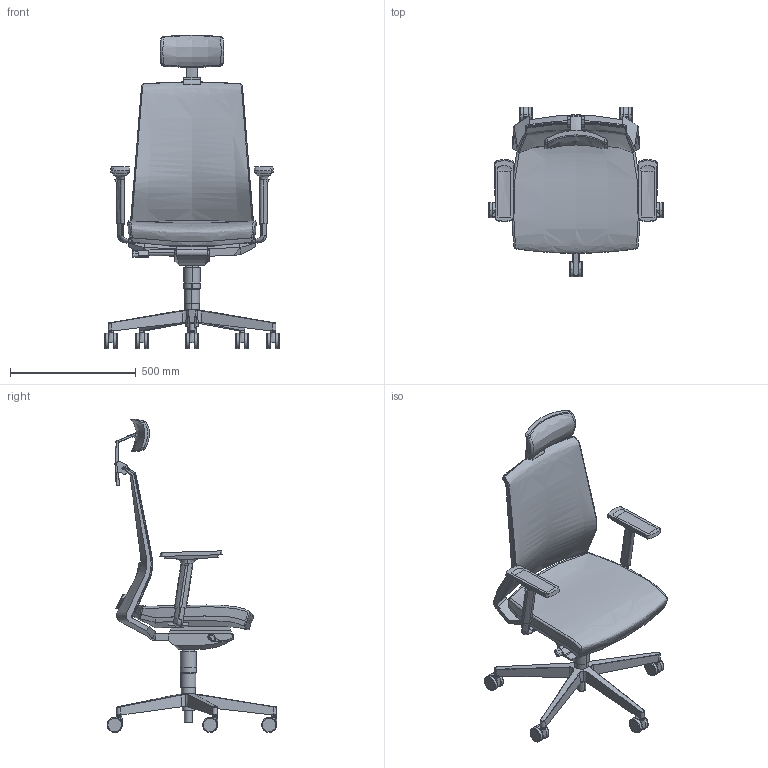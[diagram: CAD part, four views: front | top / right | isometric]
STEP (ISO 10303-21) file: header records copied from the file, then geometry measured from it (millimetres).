
FILE_DESCRIPTION(/* description */ (''),/* implementation_level */ '2;1');
FILE_NAME(/* name */ 'LOOK27~1',/* time_stamp */ '2017-08-01T13:52:14+02:00',/* author */ (''),/* organization */ (''),/* preprocessor_version */ 'ST-DEVELOPER v15',/* originating_system */ '',/* authorisation */ '');
FILE_SCHEMA (('CONFIG_CONTROL_DESIGN'));
Length unit declared in the file: millimetre
Products named in the file (1): Document
Bounding box: 694.82 x 673.73 x 1242.72 mm (x, y, z)
Volume: 6346507.5 mm3; surface area: 2327214.4 mm2
Topology: 18 solids, 70 shells, 503 faces, 1244 edges, 789 vertices
Faces by surface type: bspline 372, plane 131
Entity records: 37859 total; most frequent: CARTESIAN_POINT 30761, ORIENTED_EDGE 2174, EDGE_CURVE 1225, VERTEX_POINT 783, B_SPLINE_CURVE_WITH_KNOTS 622, EDGE_LOOP 507, ADVANCED_FACE 503, FACE_OUTER_BOUND 503
